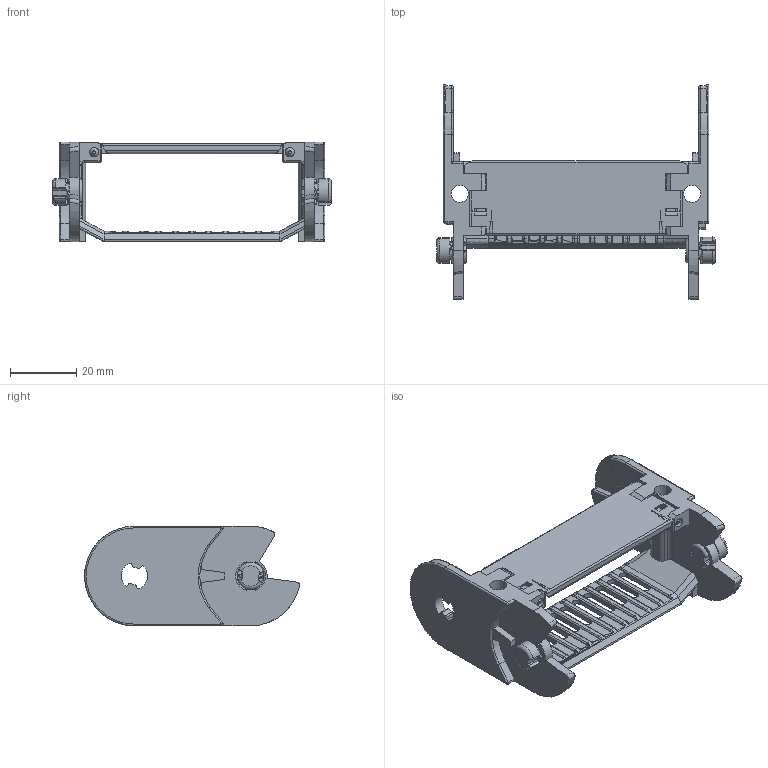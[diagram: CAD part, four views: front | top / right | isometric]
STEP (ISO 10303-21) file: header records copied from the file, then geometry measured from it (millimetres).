
FILE_DESCRIPTION((''),'2;1');
FILE_NAME('C:\Uebbing\PARAMETERKETTEN\KOLIBRI\Kol_30_080_0\Kol_30_080_0 ELTOLA_Glied.stp','2011-11-02T12:01:02',('Uebbing'),(''),'Autodesk Inventor 10','Autodesk Inventor 10','');
FILE_SCHEMA(('AUTOMOTIVE_DESIGN { 1 0 10303 214 1 1 1 1 }'));
Length unit declared in the file: millimetre
Products named in the file (4): Kol_30_080_0 ELTOLA_Glied; Kol 30_080_0 Lasche ELTOLA; Kol 30_080_0 Klappsteg; ELTOLA30
Assembly tree (4 placements, depth 2):
  Kol_30_080_0 ELTOLA_Glied
    Kol 30_080_0 Lasche ELTOLA
    Kol 30_080_0 Klappsteg
    ELTOLA30  x2
Bounding box: 84 x 64.71 x 30 mm (x, y, z)
Volume: 18656.3 mm3; surface area: 17698.6 mm2
Topology: 4 solids, 4 shells, 1192 faces, 3258 edges, 2093 vertices
Faces by surface type: plane 478, bspline 405, cylinder 238, torus 50, sphere 11, cone 10
Full cylindrical faces by diameter (mm): 1.166 x1, 2.048 x1, 2.8 x6, 5.1 x1
Entity records: 42997 total; most frequent: CARTESIAN_POINT 15878, ORIENTED_EDGE 6132, DIRECTION 4869, EDGE_CURVE 3066, VERTEX_POINT 1987, VECTOR 1797, LINE 1797, AXIS2_PLACEMENT_3D 1536
